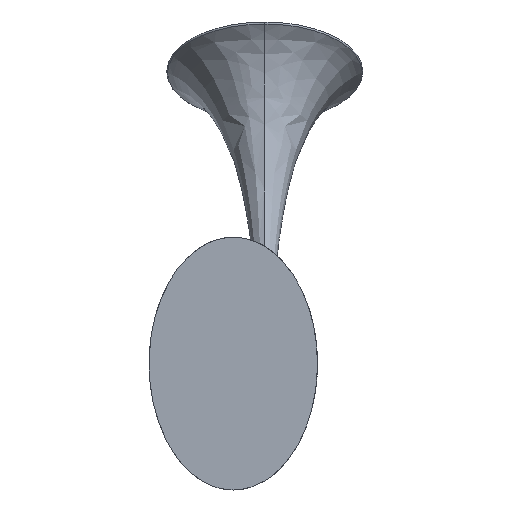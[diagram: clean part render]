
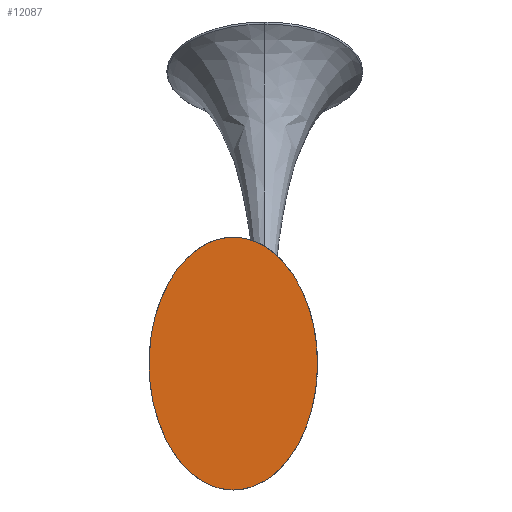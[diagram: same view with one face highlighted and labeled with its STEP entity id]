
A CAD part, front view. The second image highlights one B-rep face of the part: STEP entity #12087.
In plain terms, the highlighted planar face has unit normal (0, -1, 0).
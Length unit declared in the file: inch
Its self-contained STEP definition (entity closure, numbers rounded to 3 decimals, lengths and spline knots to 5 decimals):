
#1089 = EDGE_CURVE ( 'NONE', #11319, #8269, #7470, .T. ) ;
#1099 = CARTESIAN_POINT ( 'NONE',  ( -0.75, -0.88173, 2.25 ) ) ;
#2097 = ORIENTED_EDGE ( 'NONE', *, *, #5793, .T. ) ;
#2125 = EDGE_LOOP ( 'NONE', ( #2865, #2097 ) ) ;
#2865 = ORIENTED_EDGE ( 'NONE', *, *, #1089, .T. ) ;
#3317 = CARTESIAN_POINT ( 'NONE',  ( -0.75, -0.88173, -3.75 ) ) ;
#3622 = CARTESIAN_POINT ( 'NONE',  ( -4.75, -0.88173, -3.75 ) ) ;
#4339 =( BOUNDED_CURVE ( )  B_SPLINE_CURVE ( 3, ( #8471, #9460, #3622, #10422 ),
 .UNSPECIFIED., .F., .F. ) 
 B_SPLINE_CURVE_WITH_KNOTS ( ( 4, 4 ),
 ( 3.14159, 6.28319 ),
 .UNSPECIFIED. ) 
 CURVE ( )  GEOMETRIC_REPRESENTATION_ITEM ( )  RATIONAL_B_SPLINE_CURVE ( ( 1., 0.333, 0.333, 1. ) ) 
 REPRESENTATION_ITEM ( '' )  );
#4521 = AXIS2_PLACEMENT_3D ( 'NONE', #8466, #5550, #12368 ) ;
#5550 = DIRECTION ( 'NONE',  ( 0., 1., 0. ) ) ;
#5793 = EDGE_CURVE ( 'NONE', #8269, #11319, #4339, .T. ) ;
#7470 =( BOUNDED_CURVE ( )  B_SPLINE_CURVE ( 3, ( #3317, #9815, #8886, #1099 ),
 .UNSPECIFIED., .F., .F. ) 
 B_SPLINE_CURVE_WITH_KNOTS ( ( 4, 4 ),
 ( 0., 3.14159 ),
 .UNSPECIFIED. ) 
 CURVE ( )  GEOMETRIC_REPRESENTATION_ITEM ( )  RATIONAL_B_SPLINE_CURVE ( ( 1., 0.333, 0.333, 1. ) ) 
 REPRESENTATION_ITEM ( '' )  );
#7471 = PLANE ( 'NONE',  #4521 ) ;
#8269 = VERTEX_POINT ( 'NONE', #11056 ) ;
#8466 = CARTESIAN_POINT ( 'NONE',  ( 0.09375, -0.88173, 0.83702 ) ) ;
#8471 = CARTESIAN_POINT ( 'NONE',  ( -0.75, -0.88173, 2.25 ) ) ;
#8886 = CARTESIAN_POINT ( 'NONE',  ( 3.25, -0.88173, 2.25 ) ) ;
#9059 = CARTESIAN_POINT ( 'NONE',  ( -0.75, -0.88173, -3.75 ) ) ;
#9460 = CARTESIAN_POINT ( 'NONE',  ( -4.75, -0.88173, 2.25 ) ) ;
#9505 = FACE_OUTER_BOUND ( 'NONE', #2125, .T. ) ;
#9815 = CARTESIAN_POINT ( 'NONE',  ( 3.25, -0.88173, -3.75 ) ) ;
#10422 = CARTESIAN_POINT ( 'NONE',  ( -0.75, -0.88173, -3.75 ) ) ;
#11056 = CARTESIAN_POINT ( 'NONE',  ( -0.75, -0.88173, 2.25 ) ) ;
#11319 = VERTEX_POINT ( 'NONE', #9059 ) ;
#12087 = ADVANCED_FACE ( 'NONE', ( #9505 ), #7471, .F. ) ;
#12368 = DIRECTION ( 'NONE',  ( 0., 0., 1. ) ) ;
